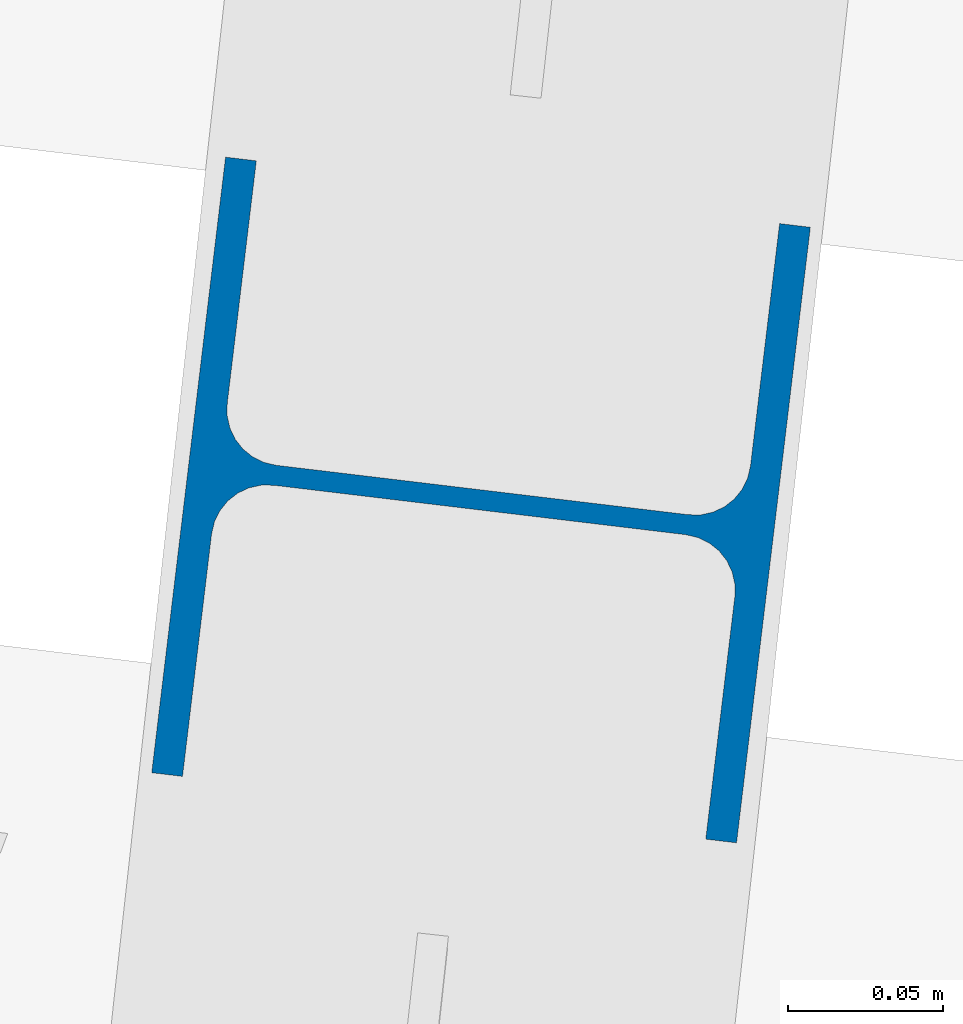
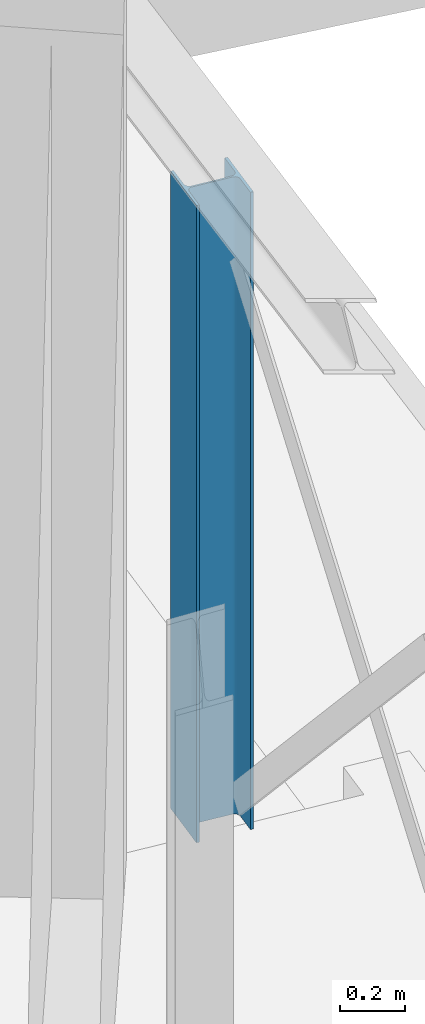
# One storey, part 36 of 46: 1 column.
"""IFC2X3 building model written with IfcOpenShell, lengths in millimetres."""

from ifc_helpers import new_model, entity, si_unit, converted_unit, derived_unit, direction, frame, frame_2d, origin, place, context, subcontext, project, spatial, i_section, extrude, source, transform, mapped, material, type_object, type_shapes, element, save


model = new_model("IFC2X3")

# Units and contexts
model_context = context("Model", 3, precision=0.01, world=origin(), true_north=direction((6.123233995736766e-17, 1.0)))
body_context = subcontext(model_context, "Body", "Model", "MODEL_VIEW")
ifc_project = project(units=[si_unit("LENGTHUNIT", "METRE", prefix="MILLI"), converted_unit("PLANEANGLEUNIT", "DEGREE", entity("IfcPlaneAngleMeasure", 0.017453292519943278), si_unit("PLANEANGLEUNIT", "RADIAN"), dimensions=[0, 0, 0, 0, 0, 0, 0]), si_unit("AREAUNIT", "SQUARE_METRE"), derived_unit("THERMALTRANSMITTANCEUNIT", [(si_unit("MASSUNIT", "GRAM", prefix="KILO"), 1), (si_unit("THERMODYNAMICTEMPERATUREUNIT", "KELVIN"), -1), (si_unit("TIMEUNIT", "SECOND"), -3)])], contexts=[model_context])

# Site, building, storey
site_placement = place(None, frame((-72937.88054949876, 11621.45624098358, 0.0), z_axis=(0.0, 0.0, 1.0), x_axis=(0.9346418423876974, -0.35559053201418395, 0.0)))
site = spatial("IfcSite", under=ifc_project, at=site_placement, Name="Default", CompositionType="ELEMENT")
building_placement = place(site_placement, origin())
building = spatial("IfcBuilding", under=site, at=building_placement, CompositionType="ELEMENT")
storey_placement = place(building_placement, origin())
storey = spatial("IfcBuildingStorey", under=building, at=storey_placement, Name="00 begane grond", CompositionType="ELEMENT", Elevation=0.0)

# Column
ifc_material = material(Name="metaal_staal_generiek")
column_type = type_object("IfcColumnType", Name="HEA200", PredefinedType="COLUMN", material=ifc_material)
shared_shape = source(origin(), body_context, "Body", "SweptSolid", [
    extrude(i_section(OverallWidth=200.00000000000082, OverallDepth=190.00000000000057, WebThickness=6.499999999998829, FlangeThickness=10.00000000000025, FilletRadius=18.0, at=frame_2d((-1.8474111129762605e-12, 1.5702994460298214e-12), x_axis=(1.0, 0.0))), frame((15279.44422966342, 30263.472175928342, -60.0), z_axis=(0.0, 0.0, 1.0), x_axis=(-0.24176909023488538, 0.9703338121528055, 0.0)), (0.0, 0.0, 1.0), 2379.9999999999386),
])
type_shapes(column_type, [shared_shape])
column_placement = place(storey_placement, origin())
element("IfcColumn", 1, at=column_placement, inside=storey, type_object=column_type, material=ifc_material, Name="28.11_SCO_KolomHEA:HEA200", ObjectType="28.11_SCO_KolomHEA:HEA200", context=body_context, shape_type="MappedRepresentation", body=[
    mapped(shared_shape, transform((0.0, 0.0, 0.0), scale=1.0)),
])

save(model, "model.ifc")
